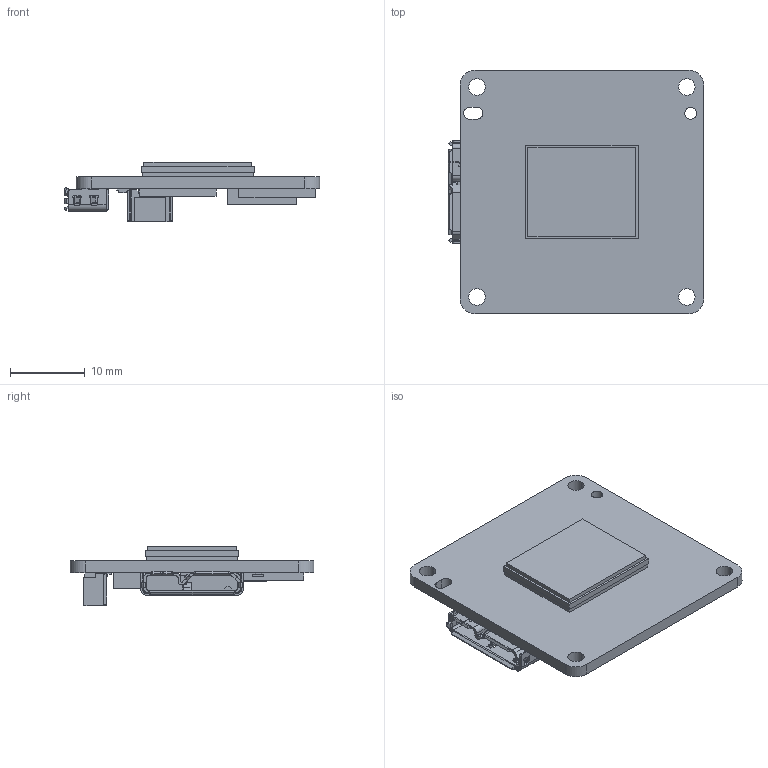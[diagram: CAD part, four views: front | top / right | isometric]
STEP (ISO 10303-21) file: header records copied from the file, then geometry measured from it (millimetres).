
FILE_DESCRIPTION((''),'2;1');
FILE_NAME('MV-CB060-10UMUC-B_ASM','2023-02-21T14:18:56',('zhangfeixiang8'),(''),'CREO PARAMETRIC BY PTC INC, 2020044','CREO PARAMETRIC BY PTC INC, 2020044','');
FILE_SCHEMA(('CONFIG_CONTROL_DESIGN'));
Length unit declared in the file: millimetre
Products named in the file (1): MV-CB060-10UMUC-B_ASM
Bounding box: 34.07 x 32.5 x 7.97 mm (x, y, z)
Volume: 2500.1 mm3; surface area: 3424.4 mm2
Topology: 1 solids, 1 shells, 1178 faces, 3679 edges, 2402 vertices
Faces by surface type: plane 797, cylinder 352, cone 12, bspline 9, torus 8
Entity records: 41385 total; most frequent: CARTESIAN_POINT 7958, ORIENTED_EDGE 7358, DIRECTION 6646, EDGE_CURVE 3679, VECTOR 2824, LINE 2824, VERTEX_POINT 2402, AXIS2_PLACEMENT_3D 1911
